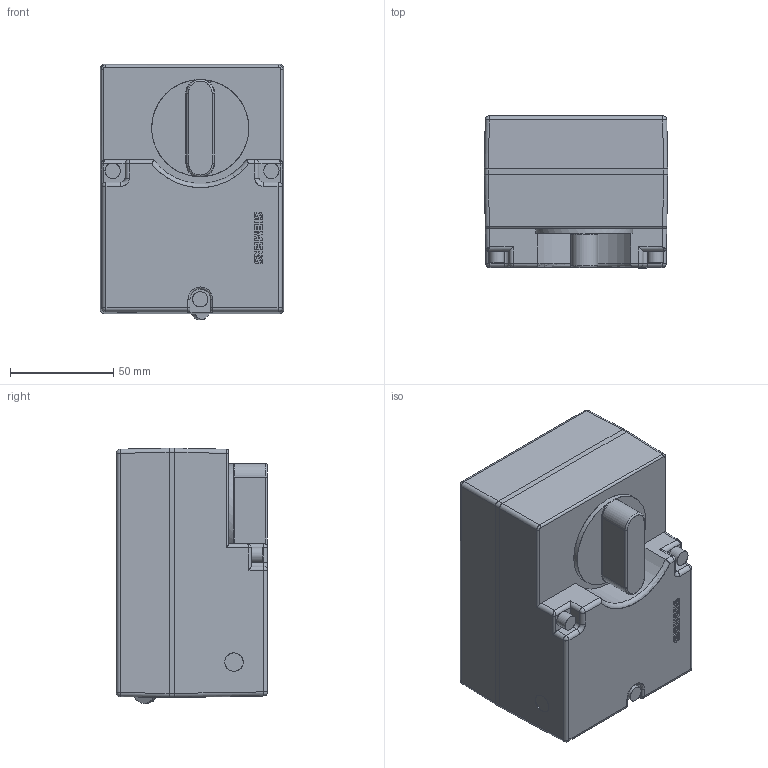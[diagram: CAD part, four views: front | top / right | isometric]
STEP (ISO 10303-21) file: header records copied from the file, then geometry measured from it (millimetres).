
FILE_DESCRIPTION(/* description */ (''),/* implementation_level */ '2;1');
FILE_NAME(/* name */ 'SQK34_84.stp',/* time_stamp */ '2013-10-28T10:25:50+01:00',/* author */ (''),/* organization */ (''),/* preprocessor_version */ 'ST-DEVELOPER v11',/* originating_system */ 'SIEMENS UGS NX 6.0',/* authorisation */ '');
FILE_SCHEMA (('AUTOMOTIVE_DESIGN { 1 0 10303 214 1 1 1 1 }'));
Length unit declared in the file: millimetre
Products named in the file (1): z002AB5Ddfwe
Bounding box: 89 x 73.7 x 124 mm (x, y, z)
Surface area: 78420 mm2 (no closed solid volume)
Topology: 0 solids, 258 shells, 258 faces, 1342 edges, 1319 vertices
Faces by surface type: plane 126, cylinder 101, torus 12, sphere 11, bspline 8
Full cylindrical faces by diameter (mm): 7.477 x3, 8.935 x4, 14.365 x2, 47.096 x1
Entity records: 16804 total; most frequent: CARTESIAN_POINT 5345, DIRECTION 1654, VERTEX_POINT 1318, ORIENTED_EDGE 1317, EDGE_CURVE 1317, LINE 652, VECTOR 652, AXIS2_PLACEMENT_3D 501
